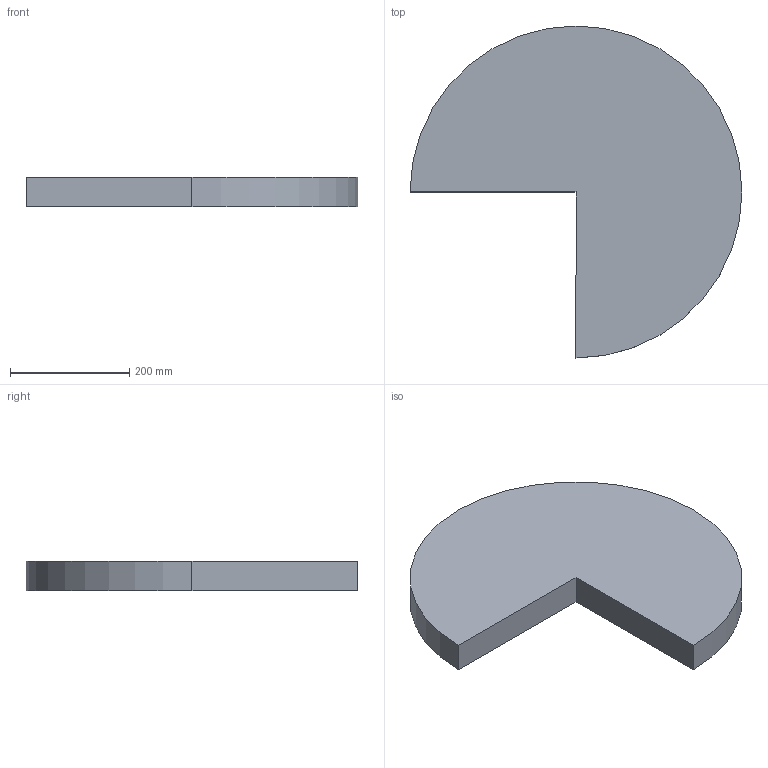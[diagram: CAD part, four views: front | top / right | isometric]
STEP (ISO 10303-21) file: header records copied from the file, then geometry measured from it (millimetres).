
FILE_DESCRIPTION(('CATIA V5 STEP Exchange'),'2;1');
FILE_NAME('C:\Users\andres.garcia\OneDrive - IQS\ASIGNATURAS\DAO\EXF\EXF-22223c\2inicio\Ej07-GARCIA_Andres.stp','2023-02-26T12:45:59+00:00',('none'),('none'),'CATIA Version 5-6 Release 2013 SP6','CATIA V5 STEP AP203','none');
FILE_SCHEMA(('CONFIG_CONTROL_DESIGN'));
Length unit declared in the file: millimetre
Products named in the file (1): Ej07-GARCIA_Andres
Bounding box: 556 x 556 x 50 mm (x, y, z)
Volume: 9104806.7 mm3; surface area: 457494.5 mm2
Topology: 1 solids, 1 shells, 5 faces, 9 edges, 6 vertices
Faces by surface type: plane 4, cylinder 1
Entity records: 164 total; most frequent: CARTESIAN_POINT 21, DIRECTION 19, ORIENTED_EDGE 18, EDGE_CURVE 9, AXIS2_PLACEMENT_3D 8, VECTOR 7, LINE 7, VERTEX_POINT 6
